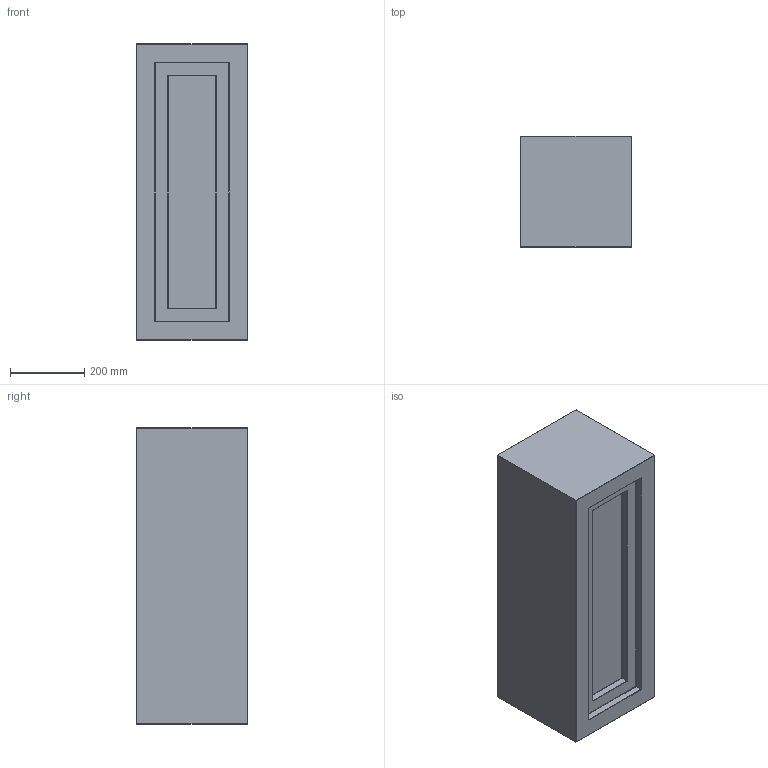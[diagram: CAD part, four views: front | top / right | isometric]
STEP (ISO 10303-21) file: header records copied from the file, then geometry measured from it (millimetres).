
FILE_DESCRIPTION(/* description */ (''),/* implementation_level */ '2;1');
FILE_NAME(/* name */ 'Podium Big',/* time_stamp */ '2021-06-09T10:24:53+02:00',/* author */ (''),/* organization */ (''),/* preprocessor_version */ 'ST-DEVELOPER v15',/* originating_system */ '',/* authorisation */ '');
FILE_SCHEMA (('AUTOMOTIVE_DESIGN'));
Length unit declared in the file: millimetre
Products named in the file (1): Document
Bounding box: 300 x 300 x 800 mm (x, y, z)
Volume: 63122865.7 mm3; surface area: 1264564.1 mm2
Topology: 1 solids, 1 shells, 126 faces, 256 edges, 136 vertices
Faces by surface type: bspline 100, plane 26
Entity records: 3349 total; most frequent: CARTESIAN_POINT 1836, ORIENTED_EDGE 512, EDGE_CURVE 256, VERTEX_POINT 136, EDGE_LOOP 130, ADVANCED_FACE 126, FACE_OUTER_BOUND 126, B_SPLINE_CURVE_WITH_KNOTS 120
